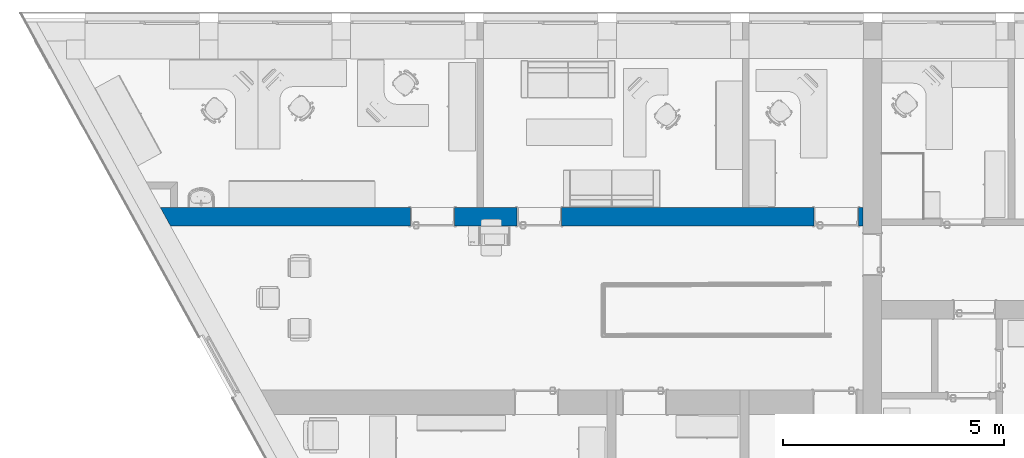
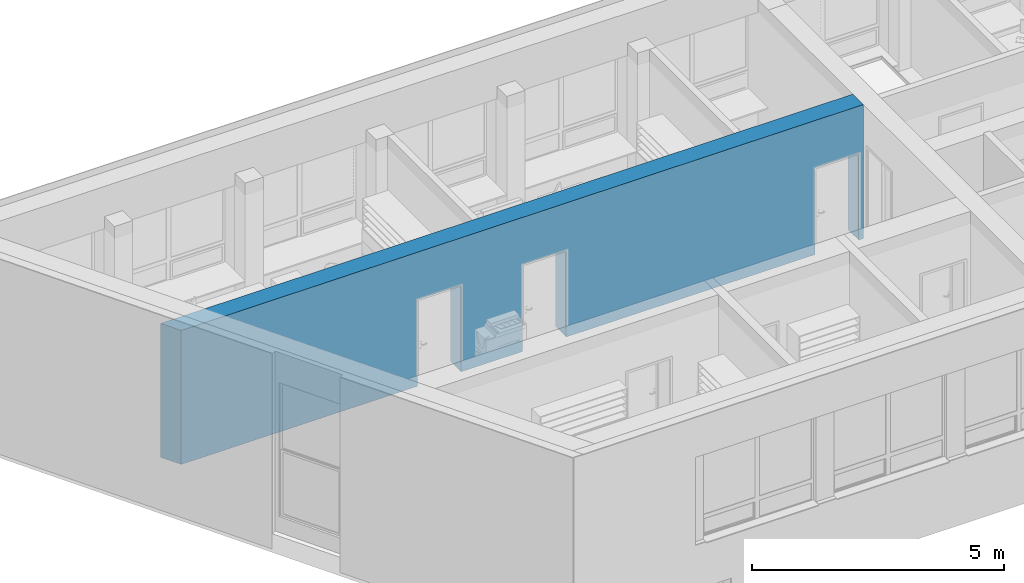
# One storey, part 28 of 194: 1 wall, 3 openings.
"""IFC2X3 building model written with IfcOpenShell, lengths in millimetres."""

from ifc_helpers import new_model, entity, si_unit, converted_unit, derived_unit, money_unit, direction, frame, origin_with_axes, origin_2d_with_axis, place, context, subcontext, project, spatial, polyline, rectangle, outline, extrude, material, layer, layer_set, layer_usage, type_object, element, save


model = new_model("IFC2X3")

# Units and contexts
model_context = context("Model", 3, precision=1e-05, world=origin_with_axes(), true_north=direction((0.0, 1.0)))
body_context = subcontext(model_context, "Body", "Model", "MODEL_VIEW")
ifc_project = project(units=[si_unit("LENGTHUNIT", "METRE", prefix="MILLI"), si_unit("AREAUNIT", "SQUARE_METRE"), si_unit("VOLUMEUNIT", "CUBIC_METRE"), converted_unit("PLANEANGLEUNIT", "DEGREE", entity("IfcPlaneAngleMeasure", 0.0174532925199), si_unit("PLANEANGLEUNIT", "RADIAN"), dimensions=[0, 0, 0, 0, 0, 0, 0]), si_unit("SOLIDANGLEUNIT", "STERADIAN"), money_unit("EUR"), converted_unit("TIMEUNIT", "Year", entity("IfcTimeMeasure", 31556926.0), si_unit("TIMEUNIT", "SECOND"), dimensions=[0, 0, 1, 0, 0, 0, 0]), si_unit("MASSUNIT", "GRAM", prefix="KILO"), si_unit("THERMODYNAMICTEMPERATUREUNIT", "DEGREE_CELSIUS"), si_unit("LUMINOUSINTENSITYUNIT", "LUMEN"), si_unit("ENERGYUNIT", "JOULE", prefix="MEGA"), derived_unit("THERMALCONDUCTANCEUNIT", [(si_unit("POWERUNIT", "WATT"), 1), (si_unit("LENGTHUNIT", "METRE"), -1), (si_unit("THERMODYNAMICTEMPERATUREUNIT", "KELVIN"), -1)]), derived_unit("SPECIFICHEATCAPACITYUNIT", [(si_unit("ENERGYUNIT", "JOULE"), 1), (si_unit("MASSUNIT", "GRAM", prefix="KILO"), -1), (si_unit("THERMODYNAMICTEMPERATUREUNIT", "KELVIN"), -1)]), derived_unit("MASSDENSITYUNIT", [(si_unit("MASSUNIT", "GRAM", prefix="KILO"), 1), (si_unit("VOLUMEUNIT", "CUBIC_METRE"), -1)])], contexts=[model_context])

# Site, building, storey
site_placement = place(None, origin_with_axes())
site = spatial("IfcSite", under=ifc_project, at=site_placement, Name="Site", CompositionType="ELEMENT")
building_placement = place(site_placement, origin_with_axes())
building = spatial("IfcBuilding", under=site, at=building_placement, Name="Building", CompositionType="ELEMENT")
storey_placement = place(building_placement, frame((0.0, 0.0, 3000.0), z_axis=(0.0, 0.0, 1.0), x_axis=(1.0, 0.0, 0.0)))
storey = spatial("IfcBuildingStorey", under=building, at=storey_placement, Name="2 KORRUS", CompositionType="ELEMENT", Elevation=3000.0)

# Wall, openings
ifc_material = material(Name="Kivi -Ol.Olev Konstruktsioon")
ifc_layer = layer(ifc_material, 420.0, ventilated="UNKNOWN")
ifc_layer_set = layer_set([ifc_layer], Name="ol.olev ss 420")
ifc_layer_usage = layer_usage(ifc_layer_set, "AXIS2", "NEGATIVE", 420.0)
wall_type = type_object("IfcWallType", Name="SW - 022", PredefinedType="NOTDEFINED")
wall_placement = place(storey_placement, frame((-399.251661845, 67305.3928576, 0.0), z_axis=(0.0, 0.0, 1.0), x_axis=(1.0, 0.0, 0.0)))
wall = element("IfcWallStandardCase", 1, at=wall_placement, inside=storey, type_object=wall_type, material=ifc_layer_usage, Name="ol.olev ss 420", context=body_context, shape_type="SweptSolid", body=[
    extrude(outline(polyline([(490.87109928, 0.0), (16136.4788913, 0.0), (16136.4789767, 420.0), (259.618922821, 420.0), (490.87109928, 0.0)])), origin_with_axes(), (0.0, 0.0, 1.0), 3250.0),
])
opening_1_placement = place(wall_placement, frame((6407.91323335, 0.0, 0.0), z_axis=(0.0, 0.0, 1.0), x_axis=(1.0, 0.0, 0.0)))
element("IfcOpeningElement", 2, at=opening_1_placement, cuts=wall, Name="Siseuks * Door 22", context=body_context, shape_type="SweptSolid", body=[
    extrude(rectangle(XDim=1000.0, YDim=2100.0, at=origin_2d_with_axis()), frame((0.0, 420.0, 1050.0), z_axis=(0.0, 1.0, 0.0), x_axis=(1.0, 0.0, 0.0)), (0.0, 0.0, -1.0), 1260.0),
    extrude(rectangle(XDim=1074.0, YDim=2137.0, at=origin_2d_with_axis()), frame((0.0, 420.0, 1068.5), z_axis=(0.0, 1.0, 0.0), x_axis=(1.0, 0.0, 0.0)), (0.0, 0.0, 1.0), 420.0),
    extrude(rectangle(XDim=1074.0, YDim=2137.0, at=origin_2d_with_axis()), frame((0.0, 0.0, 1068.5), z_axis=(0.0, -1.0, 0.0), x_axis=(1.0, 0.0, 0.0)), (0.0, 0.0, 1.0), 420.0),
])
opening_2_placement = place(wall_placement, frame((8820.83780084, 0.0, 0.0), z_axis=(0.0, 0.0, 1.0), x_axis=(1.0, 0.0, 0.0)))
element("IfcOpeningElement", 3, at=opening_2_placement, cuts=wall, Name="Siseuks * Door 22", context=body_context, shape_type="SweptSolid", body=[
    extrude(rectangle(XDim=1000.0, YDim=2100.0, at=origin_2d_with_axis()), frame((0.0, 420.0, 1050.0), z_axis=(0.0, 1.0, 0.0), x_axis=(1.0, 0.0, 0.0)), (0.0, 0.0, -1.0), 1260.0),
    extrude(rectangle(XDim=1074.0, YDim=2137.0, at=origin_2d_with_axis()), frame((0.0, 420.0, 1068.5), z_axis=(0.0, 1.0, 0.0), x_axis=(1.0, 0.0, 0.0)), (0.0, 0.0, 1.0), 420.0),
    extrude(rectangle(XDim=1074.0, YDim=2137.0, at=origin_2d_with_axis()), frame((0.0, 0.0, 1068.5), z_axis=(0.0, -1.0, 0.0), x_axis=(1.0, 0.0, 0.0)), (0.0, 0.0, 1.0), 420.0),
])
opening_3_placement = place(wall_placement, frame((15528.5670596, 0.0, 0.0), z_axis=(0.0, 0.0, 1.0), x_axis=(1.0, 0.0, 0.0)))
element("IfcOpeningElement", 4, at=opening_3_placement, cuts=wall, Name="Siseuks * Door 22", context=body_context, shape_type="SweptSolid", body=[
    extrude(rectangle(XDim=1000.0, YDim=2100.0, at=origin_2d_with_axis()), frame((0.0, 420.0, 1050.0), z_axis=(0.0, 1.0, 0.0), x_axis=(1.0, 0.0, 0.0)), (0.0, 0.0, -1.0), 1260.0),
    extrude(rectangle(XDim=1074.0, YDim=2137.0, at=origin_2d_with_axis()), frame((0.0, 420.0, 1068.5), z_axis=(0.0, 1.0, 0.0), x_axis=(1.0, 0.0, 0.0)), (0.0, 0.0, 1.0), 420.0),
    extrude(rectangle(XDim=1074.0, YDim=2137.0, at=origin_2d_with_axis()), frame((0.0, 0.0, 1068.5), z_axis=(0.0, -1.0, 0.0), x_axis=(1.0, 0.0, 0.0)), (0.0, 0.0, 1.0), 420.0),
])

save(model, "model.ifc")
